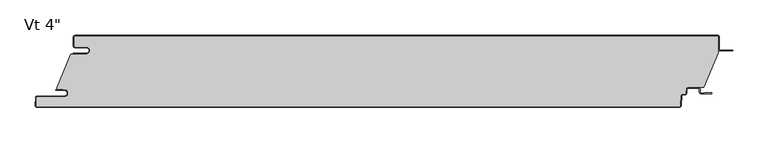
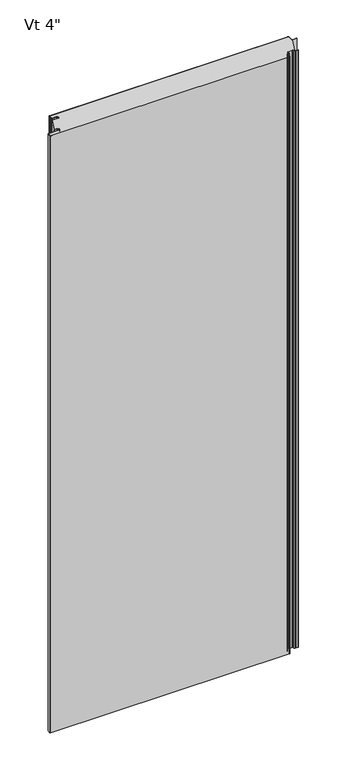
"""IFC4 building model written with IfcOpenShell, lengths in millimetres: plate geometry."""

from ifc_helpers import new_model, si_unit, point, frame, frame_2d, origin, origin_with_axes, place, context, project, spatial, polyline, circle_curve, ellipse_curve, trimmed, segment, composite_curve, outline, extrude, source, transform, mapped, element, save
from ifc_brep_helpers import plane_surface, cylinder_surface, revolved_surface, extruded_surface, advanced_brep


def plate_15d49aff(model_context):
    return source(origin(), model_context, "Body", "SolidModel", [
        extrude(outline(composite_curve([segment(polyline([(-438.14375, -16.4625), (-454.01875, -16.4625)]), True, "CONTINUOUS"), segment(trimmed(circle_curve(frame_2d((-454.01875, -15.08125)), 1.38125), [point((-454.01875, -16.4625))], [point((-455.4, -15.08125))], False, "CARTESIAN"), True, "CONTINUOUS"), segment(polyline([(-455.4, -15.08125), (-455.4, -2.38125)]), True, "CONTINUOUS"), segment(trimmed(circle_curve(frame_2d((-454.01875, -2.38125)), 1.38125), [point((-455.4, -2.38125))], [point((-454.01875, -1.0))], False, "CARTESIAN"), True, "CONTINUOUS"), segment(polyline([(-454.01875, -1.0), (454.03125, -1.0)]), True, "CONTINUOUS"), segment(trimmed(circle_curve(frame_2d((454.03125, -2.38125)), 1.38125), [point((454.03125, -1.0))], [point((455.4125, -2.38125))], False, "CARTESIAN"), True, "CONTINUOUS"), segment(polyline([(455.4125, -2.38125), (455.4125, -24.9057308), (434.5955434, -73.6125), (412.1540783, -73.6125)]), True, "CONTINUOUS"), segment(trimmed(circle_curve(frame_2d((412.1540783, -76.2)), 2.5875), [point((412.1540783, -73.6125))], [point((409.5701244, -76.0645807))], True, "CARTESIAN"), True, "CONTINUOUS"), segment(polyline([(409.5701244, -76.0645807), (409.2680481, -81.828539)]), True, "CONTINUOUS"), segment(trimmed(circle_curve(frame_2d((407.8886911, -81.75625)), 1.38125), [point((409.2680481, -81.828539))], [point((407.8886911, -83.1375))], False, "CARTESIAN"), True, "CONTINUOUS"), segment(polyline([(407.8886911, -83.1375), (404.8448847, -83.1375)]), True, "CONTINUOUS"), segment(trimmed(circle_curve(frame_2d((404.8448847, -85.725)), 2.5875), [point((404.8448847, -83.1375))], [point((402.2609307, -85.5895807))], True, "CARTESIAN"), True, "CONTINUOUS"), segment(polyline([(402.2609307, -85.5895807), (401.5428677, -99.291039)]), True, "CONTINUOUS"), segment(trimmed(circle_curve(frame_2d((400.1635107, -99.21875)), 1.38125), [point((401.5428677, -99.291039))], [point((400.1635107, -100.6))], False, "CARTESIAN"), True, "CONTINUOUS"), segment(polyline([(400.1635107, -100.6), (-507.8799535, -100.6)]), True, "CONTINUOUS"), segment(trimmed(circle_curve(frame_2d((-507.8799535, -99.21875)), 1.38125), [point((-507.8799535, -100.6))], [point((-509.2593106, -99.146461))], False, "CARTESIAN"), True, "CONTINUOUS"), segment(polyline([(-509.2593106, -99.146461), (-508.6769291, -88.033961)]), True, "CONTINUOUS"), segment(trimmed(circle_curve(frame_2d((-507.2975721, -88.10625)), 1.38125), [point((-508.6769291, -88.033961))], [point((-507.2975721, -86.725))], False, "CARTESIAN"), True, "CONTINUOUS"), segment(polyline([(-507.2975721, -86.725), (-469.1142674, -86.725)]), True, "CONTINUOUS"), segment(trimmed(circle_curve(frame_2d((-469.1142674, -81.75625)), 4.96875), [point((-469.1142674, -86.725))], [point((-469.1142674, -76.7875))], True, "CARTESIAN"), True, "CONTINUOUS"), segment(polyline([(-469.1142674, -76.7875), (-470.7017674, -76.99375), (-470.7017674, -76.2), (-480.2125, -76.2), (-480.2125, -74.6157227), (-460.3260922, -26.4), (-438.14375, -26.4)]), True, "CONTINUOUS"), segment(trimmed(circle_curve(frame_2d((-438.14375, -21.43125)), 4.96875), [point((-438.14375, -26.4))], [point((-438.14375, -16.4625))], True, "CARTESIAN"), True, "CONTINUOUS")], self_intersect=False)), origin_with_axes(), (0.0, 0.0, 1.0), 2400.0),
        extrude(outline(composite_curve([segment(polyline([(-456.4, -25.4), (-438.14375, -25.4)]), True, "CONTINUOUS"), segment(trimmed(circle_curve(frame_2d((-438.14375, -21.43125)), 3.96875), [point((-438.14375, -25.4))], [point((-438.14375, -17.4625))], True, "CARTESIAN"), True, "CONTINUOUS"), segment(polyline([(-438.14375, -17.4625), (-454.01875, -17.4625)]), True, "CONTINUOUS"), segment(trimmed(circle_curve(frame_2d((-454.01875, -15.08125)), 2.38125), [point((-454.01875, -17.4625))], [point((-456.4, -15.08125))], False, "CARTESIAN"), True, "CONTINUOUS"), segment(polyline([(-456.4, -15.08125), (-456.4, -2.38125)]), True, "CONTINUOUS"), segment(trimmed(circle_curve(frame_2d((-454.01875, -2.38125)), 2.38125), [point((-456.4, -2.38125))], [point((-454.01875, 0.0))], False, "CARTESIAN"), True, "CONTINUOUS"), segment(polyline([(-454.01875, 0.0), (454.03125, 0.0)]), True, "CONTINUOUS"), segment(trimmed(circle_curve(frame_2d((454.03125, -2.38125)), 2.38125), [point((454.03125, 0.0))], [point((456.4125, -2.38125))], False, "CARTESIAN"), True, "CONTINUOUS"), segment(polyline([(456.4125, -2.38125), (456.4125, -19.446875)]), True, "CONTINUOUS"), segment(trimmed(circle_curve(frame_2d((458.0, -19.446875)), 1.5875), [point((456.4125, -19.446875))], [point((458.0, -21.034375))], True, "CARTESIAN"), True, "CONTINUOUS"), segment(polyline([(458.0, -21.034375), (475.4625, -21.034375), (475.4625, -22.034375), (458.0, -22.034375)]), True, "CONTINUOUS"), segment(trimmed(circle_curve(frame_2d((458.0, -19.446875)), 2.5875), [point((458.0, -22.034375))], [point((455.4125, -19.446875))], False, "CARTESIAN"), True, "CONTINUOUS"), segment(polyline([(455.4125, -19.446875), (455.4125, -2.38125)]), True, "CONTINUOUS"), segment(trimmed(circle_curve(frame_2d((454.03125, -2.38125)), 1.38125), [point((455.4125, -2.38125))], [point((454.03125, -1.0))], True, "CARTESIAN"), True, "CONTINUOUS"), segment(polyline([(454.03125, -1.0), (-454.01875, -1.0)]), True, "CONTINUOUS"), segment(trimmed(circle_curve(frame_2d((-454.01875, -2.38125)), 1.38125), [point((-454.01875, -1.0))], [point((-455.4, -2.38125))], True, "CARTESIAN"), True, "CONTINUOUS"), segment(polyline([(-455.4, -2.38125), (-455.4, -15.08125)]), True, "CONTINUOUS"), segment(trimmed(circle_curve(frame_2d((-454.01875, -15.08125)), 1.38125), [point((-455.4, -15.08125))], [point((-454.01875, -16.4625))], True, "CARTESIAN"), True, "CONTINUOUS"), segment(polyline([(-454.01875, -16.4625), (-438.14375, -16.4625)]), True, "CONTINUOUS"), segment(trimmed(circle_curve(frame_2d((-438.14375, -21.43125)), 4.96875), [point((-438.14375, -16.4625))], [point((-438.14375, -26.4))], False, "CARTESIAN"), True, "CONTINUOUS"), segment(polyline([(-438.14375, -26.4), (-456.4, -26.4), (-456.4, -25.4)]), True, "CONTINUOUS")], self_intersect=False)), origin_with_axes(), (0.0, 0.0, 1.0), 2400.0),
        advanced_brep(
        [(-480.4252049, -76.2, 2400.0), (-480.4252049, -77.7875, 2400.0), (-469.1142674, -77.7875, 2400.0), (-469.1142674, -85.725, 2400.0), (-507.2975721, -85.725, 2400.0), (-509.6755586, -87.981625, 2400.0), (-510.2579401, -99.094125, 2400.0), (-507.8799535, -101.6, 2400.0), (400.1635107, -101.6, 2400.0), (402.5414973, -99.343375, 2400.0), (403.2595603, -85.6419167, 2400.0), (404.8448847, -84.1375, 2400.0), (407.8886911, -84.1375, 2400.0), (410.2666776, -81.880875, 2400.0), (410.5687539, -76.1169167, 2400.0), (412.1540783, -74.6125, 2400.0), (427.0294826, -74.6125, 2400.0), (428.6169826, -76.2, 2400.0), (428.6169826, -80.3671875, 2400.0), (430.9982326, -82.7484375, 2400.0), (445.4898532, -82.7484375, 2400.0), (445.4898532, -80.9546875, 2400.0), (435.7607326, -80.9546875, 2400.0), (435.7607326, -81.7484375, 2400.0), (430.9982326, -81.7484375, 2400.0), (429.6169826, -80.3671875, 2400.0), (429.6169826, -76.2, 2400.0), (427.0294826, -73.6125, 2400.0), (412.1540783, -73.6125, 2400.0), (409.5701244, -76.0645807, 2400.0), (409.2680481, -81.828539, 2400.0), (407.8886911, -83.1375, 2400.0), (404.8448847, -83.1375, 2400.0), (402.2609307, -85.5895807, 2400.0), (401.5428677, -99.291039, 2400.0), (400.1635107, -100.6, 2400.0), (-507.8799535, -100.6, 2400.0), (-509.2593106, -99.146461, 2400.0), (-508.6769291, -88.033961, 2400.0), (-507.2975721, -86.725, 2400.0), (-469.1142674, -86.725, 2400.0), (-469.1142674, -76.7875, 2400.0), (-470.7017674, -76.99375, 2400.0), (-470.7017674, -76.2, 2400.0), (-480.4252049, -76.2, 0.0), (-470.7017674, -76.2, 0.0), (-470.7017674, -76.99375, 0.0), (-469.1142674, -76.7875, 0.0), (-469.1142674, -86.725, 0.0), (-507.2975721, -86.725, 0.0), (-508.6769291, -88.033961, 0.0), (-509.2593106, -99.146461, 0.0), (-507.8799535, -100.6, 0.0), (400.1635107, -100.6, 0.0), (401.5428677, -99.291039, 0.0), (402.2609307, -85.5895807, 0.0), (404.8448847, -83.1375, 0.0), (407.8886911, -83.1375, 0.0), (409.2680481, -81.828539, 0.0), (409.5701244, -76.0645807, 0.0), (412.1540783, -73.6125, 0.0), (427.0294826, -73.6125, 0.0), (429.6169826, -76.2, 0.0), (429.6169826, -80.3671875, 0.0), (430.9982326, -81.7484375, 0.0), (435.7607326, -81.7484375, 0.0), (435.7607326, -80.9546875, 0.0), (445.4898532, -80.9546875, 0.0), (445.4898532, -82.7484375, 0.0), (430.9982326, -82.7484375, 0.0), (428.6169826, -80.3671875, 0.0), (428.6169826, -76.2, 0.0), (427.0294826, -74.6125, 0.0), (412.1540783, -74.6125, 0.0), (410.5687539, -76.1169167, 0.0), (410.2666776, -81.880875, 0.0), (407.8886911, -84.1375, 0.0), (404.8448847, -84.1375, 0.0), (403.2595603, -85.6419167, 0.0), (402.5414973, -99.343375, 0.0), (400.1635107, -101.6, 0.0), (-507.8799535, -101.6, 0.0), (-510.2579401, -99.094125, 0.0), (-509.6755586, -87.981625, 0.0), (-507.2975721, -85.725, 0.0), (-469.1142674, -85.725, 0.0), (-469.1142674, -77.7875, 0.0), (-480.4252049, -77.7875, 0.0)],
        [
            (0, 1, circle_curve(frame((-480.4252049, -76.99375, 2400.0), z_axis=(0.0, 0.0, 1.0), x_axis=(1.0, 0.0, 0.0)), 0.79375)),
            (1, 2),
            (2, 3, circle_curve(frame((-469.1142674, -81.75625, 2400.0), z_axis=(0.0, 0.0, -1.0), x_axis=(1.0, 0.0, 0.0)), 3.96875)),
            (3, 4),
            (4, 5, circle_curve(frame((-507.2975721, -88.10625, 2400.0), z_axis=(0.0, 0.0, 1.0), x_axis=(1.0, 0.0, 0.0)), 2.38125)),
            (5, 6),
            (6, 7, circle_curve(frame((-507.8799535, -99.21875, 2400.0), z_axis=(0.0, 0.0, 1.0), x_axis=(1.0, 0.0, 0.0)), 2.38125)),
            (7, 8),
            (8, 9, circle_curve(frame((400.1635107, -99.21875, 2400.0), z_axis=(0.0, 0.0, 1.0), x_axis=(1.0, 0.0, 0.0)), 2.38125)),
            (9, 10),
            (10, 11, circle_curve(frame((404.8448847, -85.725, 2400.0), z_axis=(0.0, 0.0, -1.0), x_axis=(1.0, 0.0, 0.0)), 1.5875)),
            (11, 12),
            (12, 13, circle_curve(frame((407.8886911, -81.75625, 2400.0), z_axis=(0.0, 0.0, 1.0), x_axis=(1.0, 0.0, 0.0)), 2.38125)),
            (13, 14),
            (14, 15, circle_curve(frame((412.1540783, -76.2, 2400.0), z_axis=(0.0, 0.0, -1.0), x_axis=(1.0, 0.0, 0.0)), 1.5875)),
            (15, 16),
            (16, 17, circle_curve(frame((427.0294826, -76.2, 2400.0), z_axis=(0.0, 0.0, -1.0), x_axis=(1.0, 0.0, 0.0)), 1.5875)),
            (17, 18),
            (18, 19, circle_curve(frame((430.9982326, -80.3671875, 2400.0), z_axis=(0.0, 0.0, 1.0), x_axis=(1.0, 0.0, 0.0)), 2.38125)),
            (19, 20),
            (20, 21, ellipse_curve(frame((445.4898532, -81.8515625, 2400.0), z_axis=(0.0, 0.0, 1.0), x_axis=(0.0, 1.0, 0.0)), 0.896875, 0.7852275)),
            (21, 22),
            (22, 23),
            (23, 24),
            (24, 25, circle_curve(frame((430.9982326, -80.3671875, 2400.0), z_axis=(0.0, 0.0, -1.0), x_axis=(1.0, 0.0, 0.0)), 1.38125)),
            (25, 26),
            (26, 27, circle_curve(frame((427.0294826, -76.2, 2400.0), z_axis=(0.0, 0.0, 1.0), x_axis=(1.0, 0.0, 0.0)), 2.5875)),
            (27, 28),
            (28, 29, circle_curve(frame((412.1540783, -76.2, 2400.0), z_axis=(0.0, 0.0, 1.0), x_axis=(1.0, 0.0, 0.0)), 2.5875)),
            (29, 30),
            (30, 31, circle_curve(frame((407.8886911, -81.75625, 2400.0), z_axis=(0.0, 0.0, -1.0), x_axis=(1.0, 0.0, 0.0)), 1.38125)),
            (31, 32),
            (32, 33, circle_curve(frame((404.8448847, -85.725, 2400.0), z_axis=(0.0, 0.0, 1.0), x_axis=(1.0, 0.0, 0.0)), 2.5875)),
            (33, 34),
            (34, 35, circle_curve(frame((400.1635107, -99.21875, 2400.0), z_axis=(0.0, 0.0, -1.0), x_axis=(1.0, 0.0, 0.0)), 1.38125)),
            (35, 36),
            (36, 37, circle_curve(frame((-507.8799535, -99.21875, 2400.0), z_axis=(0.0, 0.0, -1.0), x_axis=(1.0, 0.0, 0.0)), 1.38125)),
            (37, 38),
            (38, 39, circle_curve(frame((-507.2975721, -88.10625, 2400.0), z_axis=(0.0, 0.0, -1.0), x_axis=(1.0, 0.0, 0.0)), 1.38125)),
            (39, 40),
            (40, 41, circle_curve(frame((-469.1142674, -81.75625, 2400.0), z_axis=(0.0, 0.0, 1.0), x_axis=(1.0, 0.0, 0.0)), 4.96875)),
            (41, 42),
            (42, 43),
            (43, 0),
            (44, 45),
            (45, 46),
            (46, 47),
            (47, 48, circle_curve(frame((-469.1142674, -81.75625, 0.0), z_axis=(0.0, 0.0, -1.0), x_axis=(1.0, 0.0, 0.0)), 4.96875)),
            (48, 49),
            (49, 50, circle_curve(frame((-507.2975721, -88.10625, 0.0), z_axis=(0.0, 0.0, 1.0), x_axis=(1.0, 0.0, 0.0)), 1.38125)),
            (50, 51),
            (51, 52, circle_curve(frame((-507.8799535, -99.21875, 0.0), z_axis=(0.0, 0.0, 1.0), x_axis=(1.0, 0.0, 0.0)), 1.38125)),
            (52, 53),
            (53, 54, circle_curve(frame((400.1635107, -99.21875, 0.0), z_axis=(0.0, 0.0, 1.0), x_axis=(1.0, 0.0, 0.0)), 1.38125)),
            (54, 55),
            (55, 56, circle_curve(frame((404.8448847, -85.725, 0.0), z_axis=(0.0, 0.0, -1.0), x_axis=(1.0, 0.0, 0.0)), 2.5875)),
            (56, 57),
            (57, 58, circle_curve(frame((407.8886911, -81.75625, 0.0), z_axis=(0.0, 0.0, 1.0), x_axis=(1.0, 0.0, 0.0)), 1.38125)),
            (58, 59),
            (59, 60, circle_curve(frame((412.1540783, -76.2, 0.0), z_axis=(0.0, 0.0, -1.0), x_axis=(1.0, 0.0, 0.0)), 2.5875)),
            (60, 61),
            (61, 62, circle_curve(frame((427.0294826, -76.2, 0.0), z_axis=(0.0, 0.0, -1.0), x_axis=(1.0, 0.0, 0.0)), 2.5875)),
            (62, 63),
            (63, 64, circle_curve(frame((430.9982326, -80.3671875, 0.0), z_axis=(0.0, 0.0, 1.0), x_axis=(1.0, 0.0, 0.0)), 1.38125)),
            (64, 65),
            (65, 66),
            (66, 67),
            (67, 68, ellipse_curve(frame((445.4898532, -81.8515625, 0.0), z_axis=(0.0, 0.0, -1.0), x_axis=(0.0, 1.0, 0.0)), 0.896875, 0.7852275)),
            (68, 69),
            (69, 70, circle_curve(frame((430.9982326, -80.3671875, 0.0), z_axis=(0.0, 0.0, -1.0), x_axis=(1.0, 0.0, 0.0)), 2.38125)),
            (70, 71),
            (71, 72, circle_curve(frame((427.0294826, -76.2, 0.0), z_axis=(0.0, 0.0, 1.0), x_axis=(1.0, 0.0, 0.0)), 1.5875)),
            (72, 73),
            (73, 74, circle_curve(frame((412.1540783, -76.2, 0.0), z_axis=(0.0, 0.0, 1.0), x_axis=(1.0, 0.0, 0.0)), 1.5875)),
            (74, 75),
            (75, 76, circle_curve(frame((407.8886911, -81.75625, 0.0), z_axis=(0.0, 0.0, -1.0), x_axis=(1.0, 0.0, 0.0)), 2.38125)),
            (76, 77),
            (77, 78, circle_curve(frame((404.8448847, -85.725, 0.0), z_axis=(0.0, 0.0, 1.0), x_axis=(1.0, 0.0, 0.0)), 1.5875)),
            (78, 79),
            (79, 80, circle_curve(frame((400.1635107, -99.21875, 0.0), z_axis=(0.0, 0.0, -1.0), x_axis=(1.0, 0.0, 0.0)), 2.38125)),
            (80, 81),
            (81, 82, circle_curve(frame((-507.8799535, -99.21875, 0.0), z_axis=(0.0, 0.0, -1.0), x_axis=(1.0, 0.0, 0.0)), 2.38125)),
            (82, 83),
            (83, 84, circle_curve(frame((-507.2975721, -88.10625, 0.0), z_axis=(0.0, 0.0, -1.0), x_axis=(1.0, 0.0, 0.0)), 2.38125)),
            (84, 85),
            (85, 86, circle_curve(frame((-469.1142674, -81.75625, 0.0), z_axis=(0.0, 0.0, 1.0), x_axis=(1.0, 0.0, 0.0)), 3.96875)),
            (86, 87),
            (87, 44, circle_curve(frame((-480.4252049, -76.99375, 0.0), z_axis=(0.0, 0.0, -1.0), x_axis=(1.0, 0.0, 0.0)), 0.79375)),
            (20, 68),
            (67, 21),
            (66, 22),
            (65, 23),
            (41, 47),
            (46, 42),
            (45, 43),
            (40, 48),
            (39, 49),
            (38, 50),
            (37, 51),
            (33, 55),
            (54, 34),
            (32, 56),
            (31, 57),
            (30, 58),
            (29, 59),
            (28, 60),
            (64, 24),
            (63, 25),
            (62, 26),
            (61, 27),
            (18, 70),
            (69, 19),
            (17, 71),
            (16, 72),
            (15, 73),
            (14, 74),
            (13, 75),
            (12, 76),
            (11, 77),
            (10, 78),
            (9, 79),
            (5, 83),
            (82, 6),
            (4, 84),
            (3, 85),
            (2, 86),
            (1, 87),
            (0, 44),
            (36, 52),
            (35, 53),
            (8, 80),
            (7, 81),
        ],
        [
            plane_surface(frame((0.00625, -101.6, 2400.0), z_axis=(0.0, 0.0, 1.0), x_axis=(0.0, -1.0, 0.0))),
            plane_surface(frame((0.00625, -101.6, 0.0), z_axis=(0.0, 0.0, -1.0), x_axis=(0.0, -1.0, 0.0))),
            extruded_surface(trimmed(ellipse_curve(frame((445.4898532, -81.8515625, 2400.0), z_axis=(0.0, 0.0, -1.0), x_axis=(0.0, 1.0, 0.0)), 0.896875, 0.7852275), [point((445.4898532, -80.9546875, 2400.0))], [point((445.4898532, -82.7484375, 2400.0))], True, "CARTESIAN"), (0.0, 0.0, -2400.0), 2400.0),
            plane_surface(frame((435.7607326, -80.9546875, 2400.0), z_axis=(0.0, 1.0, 0.0), x_axis=(0.0, 0.0, -1.0))),
            plane_surface(frame((435.7607326, -81.7484375, 2400.0), z_axis=(-1.0, 0.0, 0.0), x_axis=(0.0, 0.0, -1.0))),
            plane_surface(frame((-470.7017674, -76.99375, 2400.0), z_axis=(-0.12883844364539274, 0.9916655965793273, 0.0), x_axis=(0.0, 0.0, -1.0))),
            plane_surface(frame((-470.7017674, -76.2, 2400.0), z_axis=(1.0, 0.0, 0.0), x_axis=(0.0, 0.0, -1.0))),
            cylinder_surface(frame((-469.1142674, -81.75625, 2400.0), z_axis=(0.0, 0.0, 1.0), x_axis=(1.0, 0.0, 0.0)), 4.96875),
            plane_surface(frame((-469.1142674, -86.725, 2400.0), z_axis=(0.0, -1.0, 0.0), x_axis=(0.0, 0.0, -1.0))),
            revolved_surface(polyline([(-505.9163221, -88.10625, 0.0), (-505.9163221, -88.10625, 2400.0)]), (-507.2975721, -88.10625, 2400.0), (0.0, 0.0, -1.0)),
            plane_surface(frame((-508.6769291, -88.033961, 2400.0), z_axis=(0.9986295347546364, -0.05233595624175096, 0.0), x_axis=(0.0, 0.0, -1.0))),
            plane_surface(frame((401.5428677, -99.291039, 2400.0), z_axis=(-0.9986295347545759, 0.05233595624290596, 0.0), x_axis=(0.0, 0.0, -1.0))),
            cylinder_surface(frame((404.8448847, -85.725, 2400.0), z_axis=(0.0, 0.0, 1.0), x_axis=(1.0, 0.0, 0.0)), 2.5875),
            plane_surface(frame((404.8448847, -83.1375, 2400.0), z_axis=(0.0, 1.0, 0.0), x_axis=(0.0, 0.0, -1.0))),
            revolved_surface(polyline([(409.26994110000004, -81.75625, 0.0), (409.26994110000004, -81.75625, 2400.0)]), (407.8886911, -81.75625, 2400.0), (0.0, 0.0, -1.0)),
            plane_surface(frame((409.2680481, -81.828539, 2400.0), z_axis=(-0.998629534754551, 0.05233595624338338, 0.0), x_axis=(0.0, 0.0, -1.0))),
            cylinder_surface(frame((412.1540783, -76.2, 2400.0), z_axis=(0.0, 0.0, 1.0), x_axis=(1.0, 0.0, 0.0)), 2.5875),
            plane_surface(frame((430.9982326, -81.7484375, 2400.0), z_axis=(0.0, 1.0, 0.0), x_axis=(0.0, 0.0, -1.0))),
            revolved_surface(polyline([(432.3794826, -80.3671875, 0.0), (432.3794826, -80.3671875, 2400.0)]), (430.9982326, -80.3671875, 2400.0), (0.0, 0.0, -1.0)),
            plane_surface(frame((429.6169826, -76.2, 2400.0), z_axis=(1.0, 0.0, 0.0), x_axis=(0.0, 0.0, -1.0))),
            cylinder_surface(frame((427.0294826, -76.2, 2400.0), z_axis=(0.0, 0.0, 1.0), x_axis=(1.0, 0.0, 0.0)), 2.5875),
            plane_surface(frame((412.1540783, -73.6125, 2400.0), z_axis=(0.0, 1.0, 0.0), x_axis=(0.0, 0.0, -1.0))),
            cylinder_surface(frame((430.9982326, -80.3671875, 2400.0), z_axis=(0.0, 0.0, 1.0), x_axis=(1.0, 0.0, 0.0)), 2.38125),
            plane_surface(frame((428.6169826, -80.3671875, 2400.0), z_axis=(-1.0, 0.0, 0.0), x_axis=(0.0, 0.0, -1.0))),
            revolved_surface(polyline([(428.6169826, -76.2, 0.0), (428.6169826, -76.2, 2400.0)]), (427.0294826, -76.2, 2400.0), (0.0, 0.0, -1.0)),
            plane_surface(frame((427.0294826, -74.6125, 2400.0), z_axis=(0.0, -1.0, 0.0), x_axis=(0.0, 0.0, -1.0))),
            revolved_surface(polyline([(413.74157829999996, -76.2, 0.0), (413.74157829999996, -76.2, 2400.0)]), (412.1540783, -76.2, 2400.0), (0.0, 0.0, -1.0)),
            plane_surface(frame((410.5687539, -76.1169167, 2400.0), z_axis=(0.9986295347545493, -0.05233595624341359, 0.0), x_axis=(0.0, 0.0, -1.0))),
            cylinder_surface(frame((407.8886911, -81.75625, 2400.0), z_axis=(0.0, 0.0, 1.0), x_axis=(1.0, 0.0, 0.0)), 2.38125),
            plane_surface(frame((407.8886911, -84.1375, 2400.0), z_axis=(0.0, -1.0, 0.0), x_axis=(0.0, 0.0, -1.0))),
            revolved_surface(polyline([(406.4323847, -85.725, 0.0), (406.4323847, -85.725, 2400.0)]), (404.8448847, -85.725, 2400.0), (0.0, 0.0, -1.0)),
            plane_surface(frame((403.2595603, -85.6419167, 2400.0), z_axis=(0.9986295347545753, -0.052335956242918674, 0.0), x_axis=(0.0, 0.0, -1.0))),
            plane_surface(frame((-510.2579401, -99.094125, 2400.0), z_axis=(-0.9986295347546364, 0.05233595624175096, 0.0), x_axis=(0.0, 0.0, -1.0))),
            cylinder_surface(frame((-507.2975721, -88.10625, 2400.0), z_axis=(0.0, 0.0, 1.0), x_axis=(1.0, 0.0, 0.0)), 2.38125),
            plane_surface(frame((-507.2975721, -85.725, 2400.0), z_axis=(0.0, 1.0, 0.0), x_axis=(0.0, 0.0, -1.0))),
            revolved_surface(polyline([(-465.1455174, -81.75625, 0.0), (-465.1455174, -81.75625, 2400.0)]), (-469.1142674, -81.75625, 2400.0), (0.0, 0.0, -1.0)),
            plane_surface(frame((-469.1142674, -77.7875, 2400.0), z_axis=(0.0, -1.0, 0.0), x_axis=(0.0, 0.0, -1.0))),
            cylinder_surface(frame((-480.4252049, -76.99375, 2400.0), z_axis=(0.0, 0.0, 1.0), x_axis=(1.0, 0.0, 0.0)), 0.79375),
            plane_surface(frame((-480.4252049, -76.2, 2400.0), z_axis=(0.0, 1.0, 0.0), x_axis=(0.0, 0.0, -1.0))),
            revolved_surface(polyline([(-506.4987035, -99.21875, 0.0), (-506.4987035, -99.21875, 2400.0)]), (-507.8799535, -99.21875, 2400.0), (0.0, 0.0, -1.0)),
            plane_surface(frame((-507.8799535, -100.6, 2400.0), z_axis=(0.0, 1.0, 0.0), x_axis=(0.0, 0.0, -1.0))),
            revolved_surface(polyline([(401.54476070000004, -99.21875, 0.0), (401.54476070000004, -99.21875, 2400.0)]), (400.1635107, -99.21875, 2400.0), (0.0, 0.0, -1.0)),
            plane_surface(frame((445.4898532, -82.7484375, 2400.0), z_axis=(0.0, -1.0, 0.0), x_axis=(0.0, 0.0, -1.0))),
            cylinder_surface(frame((400.1635107, -99.21875, 2400.0), z_axis=(0.0, 0.0, 1.0), x_axis=(1.0, 0.0, 0.0)), 2.38125),
            plane_surface(frame((400.1635107, -101.6, 2400.0), z_axis=(0.0, -1.0, 0.0), x_axis=(0.0, 0.0, -1.0))),
            cylinder_surface(frame((-507.8799535, -99.21875, 2400.0), z_axis=(0.0, 0.0, 1.0), x_axis=(1.0, 0.0, 0.0)), 2.38125),
        ],
        [
            (0, [[1, 2, 3, 4, 5, 6, 7, 8, 9, 10, 11, 12, 13, 14, 15, 16, 17, 18, 19, 20, 21, 22, 23, 24, 25, 26, 27, 28, 29, 30, 31, 32, 33, 34, 35, 36, 37, 38, 39, 40, 41, 42, 43, 44]]),
            (1, [[45, 46, 47, 48, 49, 50, 51, 52, 53, 54, 55, 56, 57, 58, 59, 60, 61, 62, 63, 64, 65, 66, 67, 68, 69, 70, 71, 72, 73, 74, 75, 76, 77, 78, 79, 80, 81, 82, 83, 84, 85, 86, 87, 88]]),
            (2, [[89, -68, 90, -21]]),
            (3, [[-90, -67, 91, -22]]),
            (4, [[-91, -66, 92, -23]]),
            (5, [[93, -47, 94, -42]]),
            (6, [[-94, -46, 95, -43]]),
            (7, [[96, -48, -93, -41]]),
            (8, [[97, -49, -96, -40]]),
            (9, [[98, -50, -97, -39]]),
            (10, [[99, -51, -98, -38]]),
            (11, [[100, -55, 101, -34]]),
            (12, [[102, -56, -100, -33]]),
            (13, [[103, -57, -102, -32]]),
            (14, [[104, -58, -103, -31]]),
            (15, [[105, -59, -104, -30]]),
            (16, [[106, -60, -105, -29]]),
            (17, [[-92, -65, 107, -24]]),
            (18, [[-107, -64, 108, -25]]),
            (19, [[-108, -63, 109, -26]]),
            (20, [[-109, -62, 110, -27]]),
            (21, [[-110, -61, -106, -28]]),
            (22, [[111, -70, 112, -19]]),
            (23, [[113, -71, -111, -18]]),
            (24, [[114, -72, -113, -17]]),
            (25, [[115, -73, -114, -16]]),
            (26, [[116, -74, -115, -15]]),
            (27, [[117, -75, -116, -14]]),
            (28, [[118, -76, -117, -13]]),
            (29, [[119, -77, -118, -12]]),
            (30, [[120, -78, -119, -11]]),
            (31, [[121, -79, -120, -10]]),
            (32, [[122, -83, 123, -6]]),
            (33, [[124, -84, -122, -5]]),
            (34, [[125, -85, -124, -4]]),
            (35, [[126, -86, -125, -3]]),
            (36, [[127, -87, -126, -2]]),
            (37, [[128, -88, -127, -1]]),
            (38, [[-95, -45, -128, -44]]),
            (39, [[129, -52, -99, -37]]),
            (40, [[130, -53, -129, -36]]),
            (41, [[-101, -54, -130, -35]]),
            (42, [[-112, -69, -89, -20]]),
            (43, [[131, -80, -121, -9]]),
            (44, [[132, -81, -131, -8]]),
            (45, [[-123, -82, -132, -7]]),
        ],
    ),
    ])


if __name__ == "__main__":
    model = new_model("IFC4")
    model_context = context("Model", 3, world=origin())
    ifc_project = project(units=[si_unit("LENGTHUNIT", "METRE", prefix="MILLI")], contexts=[model_context])
    site = spatial("IfcSite", under=ifc_project)
    building = spatial("IfcBuilding", under=site)
    placement = place(None, origin())
    plate_shape = plate_15d49aff(model_context)
    element("IfcPlate", 1, ObjectType="KIP-36-DWTR-R19-CP-Vt-F : Vt 4\"", at=placement, inside=building, context=model_context, shape_type="MappedRepresentation", body=[
        mapped(plate_shape, transform((0.0, 0.0, 0.0), x_axis=(1.0, 0.0, 0.0), y_axis=(0.0, 1.0, 0.0), z_axis=(0.0, 0.0, 1.0))),
    ])
    save(model, "model.ifc")
